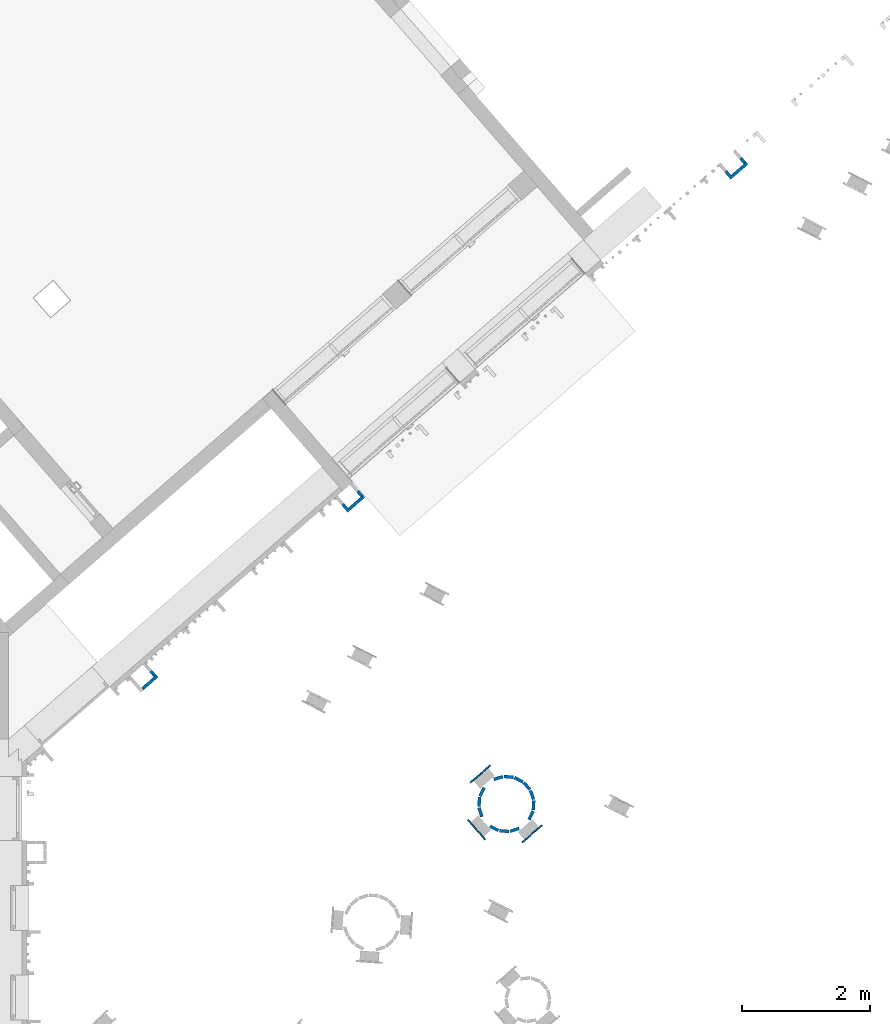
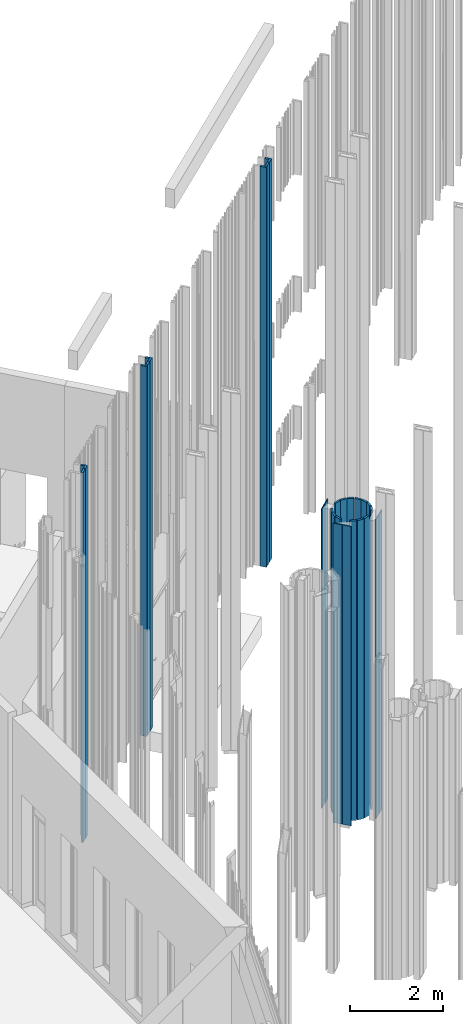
# One storey, part 19 of 390: 30 walls.
"""IFC2X3 building model written with IfcOpenShell, lengths in millimetres."""

from ifc_helpers import new_model, entity, si_unit, converted_unit, derived_unit, money_unit, direction, frame, origin_with_axes, origin_2d_with_axis, place, context, subcontext, project, spatial, rectangle, extrude, material, type_object, element, save


model = new_model("IFC2X3")

# Units and contexts
model_context = context("Model", 3, precision=1e-05, world=origin_with_axes(), true_north=direction((0.0, 1.0)))
body_context = subcontext(model_context, "Body", "Model", "MODEL_VIEW")
ifc_project = project(units=[si_unit("LENGTHUNIT", "METRE", prefix="MILLI"), si_unit("AREAUNIT", "SQUARE_METRE"), si_unit("VOLUMEUNIT", "CUBIC_METRE"), converted_unit("PLANEANGLEUNIT", "DEGREE", entity("IfcPlaneAngleMeasure", 0.0174532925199), si_unit("PLANEANGLEUNIT", "RADIAN"), dimensions=[0, 0, 0, 0, 0, 0, 0]), si_unit("SOLIDANGLEUNIT", "STERADIAN"), money_unit("EUR"), converted_unit("TIMEUNIT", "Year", entity("IfcTimeMeasure", 31556926.0), si_unit("TIMEUNIT", "SECOND"), dimensions=[0, 0, 1, 0, 0, 0, 0]), si_unit("MASSUNIT", "GRAM", prefix="KILO"), si_unit("THERMODYNAMICTEMPERATUREUNIT", "DEGREE_CELSIUS"), si_unit("LUMINOUSINTENSITYUNIT", "LUMEN"), si_unit("ENERGYUNIT", "JOULE", prefix="MEGA"), derived_unit("THERMALCONDUCTANCEUNIT", [(si_unit("POWERUNIT", "WATT"), 1), (si_unit("LENGTHUNIT", "METRE"), -1), (si_unit("THERMODYNAMICTEMPERATUREUNIT", "KELVIN"), -1)]), derived_unit("SPECIFICHEATCAPACITYUNIT", [(si_unit("ENERGYUNIT", "JOULE"), 1), (si_unit("MASSUNIT", "GRAM", prefix="KILO"), -1), (si_unit("THERMODYNAMICTEMPERATUREUNIT", "KELVIN"), -1)]), derived_unit("MASSDENSITYUNIT", [(si_unit("MASSUNIT", "GRAM", prefix="KILO"), 1), (si_unit("VOLUMEUNIT", "CUBIC_METRE"), -1)])], contexts=[model_context])

# Site, building, storey
site_placement = place(None, origin_with_axes())
site = spatial("IfcSite", under=ifc_project, at=site_placement, Name="Site", CompositionType="ELEMENT")
building_placement = place(site_placement, origin_with_axes())
building = spatial("IfcBuilding", under=site, at=building_placement, Name="Building", CompositionType="ELEMENT")
storey_placement = place(building_placement, origin_with_axes())
storey = spatial("IfcBuildingStorey", under=building, at=storey_placement, Name="1 korrus", CompositionType="ELEMENT", Elevation=0.0)

# Walls
ifc_material_1 = material(Name="Site specified")
wall_type = type_object("IfcWallType", Name="Puitfassaadi ribisik", PredefinedType="NOTDEFINED")
wall_1_placement = place(storey_placement, frame((141752.038652, 67615.2816175, 100.0), z_axis=(0.0, 0.0, 1.0), x_axis=(-0.754709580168, -0.656059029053, 0.0)))
element("IfcWall", 1, at=wall_1_placement, inside=storey, type_object=wall_type, material=ifc_material_1, Name="Site specified", context=body_context, shape_type="SweptSolid", body=[
    extrude(rectangle(XDim=50.0, YDim=100.000069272, at=origin_2d_with_axis()), origin_with_axes(), (0.0, 0.0, 1.0), 9764.9999949),
])
wall_2_placement = place(storey_placement, frame((144998.947613, 70338.4004051, 100.0), z_axis=(0.0, 0.0, 1.0), x_axis=(0.656059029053, -0.754709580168, 0.0)))
element("IfcWall", 2, at=wall_2_placement, inside=storey, type_object=wall_type, material=ifc_material_1, Name="Site specified", context=body_context, shape_type="SweptSolid", body=[
    extrude(rectangle(XDim=50.0, YDim=150.0, at=origin_2d_with_axis()), origin_with_axes(), (0.0, 0.0, 1.0), 9764.9999949),
])
wall_3_placement = place(storey_placement, frame((144987.478667, 70427.8066225, 100.0), z_axis=(0.0, 0.0, 1.0), x_axis=(-0.754709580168, -0.656059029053, 0.0)))
element("IfcWall", 3, at=wall_3_placement, inside=storey, type_object=wall_type, material=ifc_material_1, Name="Site specified", context=body_context, shape_type="SweptSolid", body=[
    extrude(rectangle(XDim=50.0, YDim=100.000069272, at=origin_2d_with_axis()), origin_with_axes(), (0.0, 0.0, 1.0), 9764.9999949),
])
for number, where, z_axis, x_axis, name in (
    (4, (144769.920171, 70205.5605366, 100.0), (0.0, 0.0, 1.0), (-0.754709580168, -0.656059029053, 0.0), "Site specified"),
    (5, (141763.507598, 67525.8754001, 100.0), (0.0, 0.0, 1.0), (0.656059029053, -0.754709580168, 0.0), "Site specified"),
    (6, (144881.967628, 70236.7112556, 100.0), (0.0, 0.0, 1.0), (0.656059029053, -0.754709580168, 0.0), "Site specified"),
    (7, (141646.527613, 67424.1862506, 100.0), (0.0, 0.0, 1.0), (0.656059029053, -0.754709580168, 0.0), "Site specified"),
):
    element("IfcWall", number, at=place(storey_placement, frame(where, z_axis=z_axis, x_axis=x_axis)), inside=storey, type_object=wall_type, material=ifc_material_1, Name=name, context=body_context, shape_type="SweptSolid", body=[
        extrude(rectangle(XDim=50.0, YDim=150.0, at=origin_2d_with_axis()), origin_with_axes(), (0.0, 0.0, 1.0), 9764.9999949),
    ])
wall_4_placement = place(storey_placement, frame((150758.540784, 75411.3891052, -687.977064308), z_axis=(0.0, 0.0, 1.0), x_axis=(-0.754709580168, -0.656059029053, 0.0)))
element("IfcWall", 8, at=wall_4_placement, inside=storey, type_object=wall_type, material=ifc_material_1, Name="Site specified", context=body_context, shape_type="SweptSolid", body=[
    extrude(rectangle(XDim=50.0, YDim=150.0, at=origin_2d_with_axis()), origin_with_axes(), (0.0, 0.0, 1.0), 10552.9770592),
])
wall_5_placement = place(storey_placement, frame((150976.099279, 75633.6351911, -687.977064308), z_axis=(0.0, 0.0, 1.0), x_axis=(-0.754709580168, -0.656059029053, 0.0)))
element("IfcWall", 9, at=wall_5_placement, inside=storey, type_object=wall_type, material=ifc_material_1, Name="Site specified", context=body_context, shape_type="SweptSolid", body=[
    extrude(rectangle(XDim=50.0, YDim=100.000069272, at=origin_2d_with_axis()), origin_with_axes(), (0.0, 0.0, 1.0), 10552.9770592),
])
for number, where, z_axis, x_axis, name in (
    (10, (150870.588241, 75442.5398242, -687.977064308), (0.0, 0.0, 1.0), (0.656059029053, -0.754709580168, 0.0), "Site specified"),
    (11, (150987.568226, 75544.2289737, -687.977064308), (0.0, 0.0, 1.0), (0.656059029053, -0.754709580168, 0.0), "Site specified"),
):
    element("IfcWall", number, at=place(storey_placement, frame(where, z_axis=z_axis, x_axis=x_axis)), inside=storey, type_object=wall_type, material=ifc_material_1, Name=name, context=body_context, shape_type="SweptSolid", body=[
        extrude(rectangle(XDim=50.0, YDim=150.0, at=origin_2d_with_axis()), origin_with_axes(), (0.0, 0.0, 1.0), 10552.9770592),
    ])
ifc_material_2 = material(Name="GENEERILINE - VÄLINE VOODER")
for number, where, z_axis, x_axis in (
    (12, (147704.795281, 65553.3653464, 100.0), (0.0, 0.0, 1.0), (-0.998765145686, 0.0496808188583, 0.0)),
    (13, (146899.721245, 65763.6079993, 100.0), (0.0, 0.0, 1.0), (0.895526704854, -0.445007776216, 0.0)),
    (14, (147473.266051, 65953.1574703, 100.0), (0.0, 0.0, 1.0), (-0.453990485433, -0.891006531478, 0.0)),
    (15, (147317.361278, 65997.8624417, 100.0), (0.0, 0.0, 1.0), (-0.0871557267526, -0.996194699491, 0.0)),
    (16, (147156.062113, 65980.9092137, 100.0), (0.0, 0.0, 1.0), (0.292371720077, -0.956304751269, 0.0)),
    (17, (147665.97706, 65395.891608, 100.0), (0.0, 0.0, 1.0), (-0.907428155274, 0.420207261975, 0.0)),
    (18, (147601.071661, 65853.3047869, 100.0), (0.0, 0.0, 1.0), (-0.754709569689, -0.656059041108, 0.0)),
):
    element("IfcWall", number, at=place(storey_placement, frame(where, z_axis=z_axis, x_axis=x_axis)), inside=storey, type_object=wall_type, material=ifc_material_2, Name="GENEERILINE - VÄLINE VOODER", context=body_context, shape_type="SweptSolid", body=[
        extrude(rectangle(XDim=50.0, YDim=150.0, at=origin_2d_with_axis()), origin_with_axes(), (0.0, 0.0, 1.0), 7900.0),
    ])
for number, where, z_axis, x_axis in (
    (19, (146952.834761, 66111.2550427, 100.0), (0.0, 0.0, 1.0), (-0.656059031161, 0.754709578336, 0.0)),
    (20, (146794.345749, 65973.4826461, 100.0), (0.0, 0.0, 1.0), (-0.656059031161, 0.754709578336, 0.0)),
    (21, (147605.222479, 65040.701238, 100.0), (0.0, 0.0, 1.0), (0.656079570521, -0.754691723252, 0.0)),
    (22, (147763.707741, 65178.4779478, 100.0), (0.0, 0.0, 1.0), (0.656079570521, -0.754691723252, 0.0)),
    (23, (146746.5328, 65249.5918299, 100.0), (0.0, 0.0, 1.0), (-0.754709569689, -0.656059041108, 0.0)),
    (24, (146884.305199, 65091.1028202, 100.0), (0.0, 0.0, 1.0), (-0.754709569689, -0.656059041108, 0.0)),
):
    element("IfcWall", number, at=place(storey_placement, frame(where, z_axis=z_axis, x_axis=x_axis)), inside=storey, type_object=wall_type, material=ifc_material_2, Name="GENEERILINE - VÄLINE VOODER", context=body_context, shape_type="SweptSolid", body=[
        extrude(rectangle(XDim=22.0, YDim=200.0, at=origin_2d_with_axis()), frame((0.0, 0.0, 0.0), z_axis=(0.0, 0.0, -1.0), x_axis=(-1.0, 0.0, 0.0)), (0.0, 0.0, -1.0), 7900.0),
    ])
for number, where, z_axis, x_axis in (
    (25, (147091.191789, 65193.8808448, 100.0), (0.0, 0.0, 1.0), (0.445007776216, 0.895526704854, 0.0)),
    (26, (147681.796208, 65713.9140156, 100.0), (0.0, 0.0, 1.0), (-0.944649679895, -0.328080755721, 0.0)),
    (27, (146875.160634, 65446.1410348, 100.0), (0.0, 0.0, 1.0), (0.953316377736, 0.301973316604, 0.0)),
    (28, (147247.538222, 65150.745876, 100.0), (0.0, 0.0, 1.0), (0.0771338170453, 0.997020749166, 0.0)),
    (29, (146856.586276, 65607.2615666, 100.0), (0.0, 0.0, 1.0), (0.997020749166, -0.0771338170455, 0.0)),
    (30, (147408.658754, 65169.3202339, 100.0), (0.0, 0.0, 1.0), (-0.301973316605, 0.953316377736, 0.0)),
):
    element("IfcWall", number, at=place(storey_placement, frame(where, z_axis=z_axis, x_axis=x_axis)), inside=storey, type_object=wall_type, material=ifc_material_2, Name="GENEERILINE - VÄLINE VOODER", context=body_context, shape_type="SweptSolid", body=[
        extrude(rectangle(XDim=50.0, YDim=150.0, at=origin_2d_with_axis()), origin_with_axes(), (0.0, 0.0, 1.0), 7900.0),
    ])

save(model, "model.ifc")
